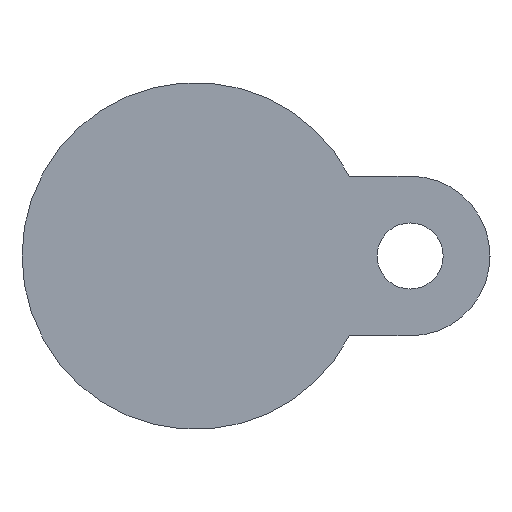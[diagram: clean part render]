
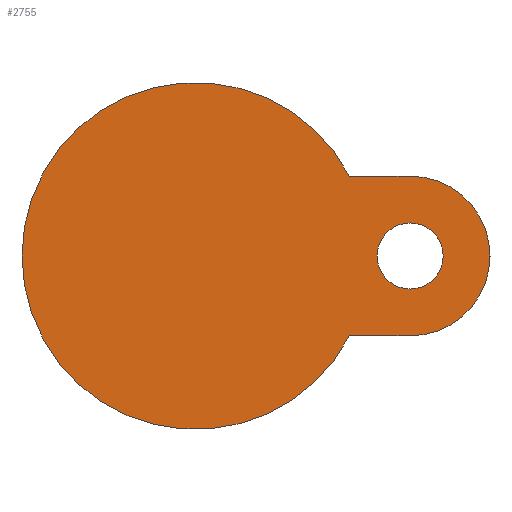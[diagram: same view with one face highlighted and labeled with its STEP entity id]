
A CAD part, front view. The second image highlights one B-rep face of the part: STEP entity #2755.
In plain terms, the highlighted planar face has unit normal (0, -1, 0).
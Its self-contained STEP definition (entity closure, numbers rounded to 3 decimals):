
#38 = AXIS2_PLACEMENT_3D ( 'NONE', #3889, #4277, #494 ) ;
#41 = AXIS2_PLACEMENT_3D ( 'NONE', #3049, #97, #5193 ) ;
#48 = AXIS2_PLACEMENT_3D ( 'NONE', #2687, #1486, #3610 ) ;
#97 = DIRECTION ( 'NONE',  ( 0., -1., 0. ) ) ;
#109 = PLANE ( 'NONE',  #4627 ) ;
#147 = CARTESIAN_POINT ( 'NONE',  ( 53.5, -15., 0. ) ) ;
#311 = CIRCLE ( 'NONE', #38, 31.5 ) ;
#440 = DIRECTION ( 'NONE',  ( 0., -1., 0. ) ) ;
#490 = AXIS2_PLACEMENT_3D ( 'NONE', #5383, #1590, #4066 ) ;
#494 = DIRECTION ( 'NONE',  ( -1., 0., 0. ) ) ;
#570 = VERTEX_POINT ( 'NONE', #147 ) ;
#781 = CARTESIAN_POINT ( 'NONE',  ( 0., -15., 0. ) ) ;
#832 = AXIS2_PLACEMENT_3D ( 'NONE', #781, #2446, #1131 ) ;
#1109 = EDGE_CURVE ( 'NONE', #5409, #2258, #1341, .T. ) ;
#1131 = DIRECTION ( 'NONE',  ( -1., 0., 0. ) ) ;
#1178 = EDGE_CURVE ( 'NONE', #4944, #3352, #2432, .T. ) ;
#1261 = ORIENTED_EDGE ( 'NONE', *, *, #2510, .T. ) ;
#1278 = CARTESIAN_POINT ( 'NONE',  ( 39., -15., 0. ) ) ;
#1329 = DIRECTION ( 'NONE',  ( 1., 0., 0. ) ) ;
#1341 = LINE ( 'NONE', #2993, #2686 ) ;
#1344 = CARTESIAN_POINT ( 'NONE',  ( 27.964, -15., -14.5 ) ) ;
#1363 = ORIENTED_EDGE ( 'NONE', *, *, #1646, .T. ) ;
#1395 = EDGE_CURVE ( 'NONE', #5409, #5335, #5266, .T. ) ;
#1482 = LINE ( 'NONE', #4845, #2602 ) ;
#1486 = DIRECTION ( 'NONE',  ( 0., -1., 0. ) ) ;
#1590 = DIRECTION ( 'NONE',  ( 0., -1., 0. ) ) ;
#1646 = EDGE_CURVE ( 'NONE', #570, #3890, #3231, .T. ) ;
#1649 = DIRECTION ( 'NONE',  ( 1., 0., 0. ) ) ;
#2057 = ORIENTED_EDGE ( 'NONE', *, *, #2988, .F. ) ;
#2258 = VERTEX_POINT ( 'NONE', #2987 ) ;
#2432 = CIRCLE ( 'NONE', #41, 6. ) ;
#2446 = DIRECTION ( 'NONE',  ( 0., 1., 0. ) ) ;
#2510 = EDGE_CURVE ( 'NONE', #3890, #3576, #1482, .T. ) ;
#2588 = CARTESIAN_POINT ( 'NONE',  ( 0., -15., 0. ) ) ;
#2602 = VECTOR ( 'NONE', #4449, 1000. ) ;
#2686 = VECTOR ( 'NONE', #1649, 1000. ) ;
#2687 = CARTESIAN_POINT ( 'NONE',  ( 39., -15., 0. ) ) ;
#2755 = ADVANCED_FACE ( 'NONE', ( #4275, #4808 ), #109, .T. ) ;
#2853 = CARTESIAN_POINT ( 'NONE',  ( 39., -15., 14.5 ) ) ;
#2960 = DIRECTION ( 'NONE',  ( 1., 0., 0. ) ) ;
#2987 = CARTESIAN_POINT ( 'NONE',  ( 39., -15., -14.5 ) ) ;
#2988 = EDGE_CURVE ( 'NONE', #3352, #4944, #4716, .T. ) ;
#2993 = CARTESIAN_POINT ( 'NONE',  ( 39., -15., -14.5 ) ) ;
#3015 = ORIENTED_EDGE ( 'NONE', *, *, #1109, .T. ) ;
#3025 = ORIENTED_EDGE ( 'NONE', *, *, #1395, .F. ) ;
#3049 = CARTESIAN_POINT ( 'NONE',  ( 39., -15., 0. ) ) ;
#3231 = CIRCLE ( 'NONE', #48, 14.5 ) ;
#3256 = CARTESIAN_POINT ( 'NONE',  ( -31.5, -15., 0. ) ) ;
#3352 = VERTEX_POINT ( 'NONE', #3480 ) ;
#3480 = CARTESIAN_POINT ( 'NONE',  ( 33., -15., 0. ) ) ;
#3503 = CIRCLE ( 'NONE', #490, 14.5 ) ;
#3515 = DIRECTION ( 'NONE',  ( 0., -1., 0. ) ) ;
#3576 = VERTEX_POINT ( 'NONE', #4324 ) ;
#3610 = DIRECTION ( 'NONE',  ( 1., 0., 0. ) ) ;
#3749 = AXIS2_PLACEMENT_3D ( 'NONE', #1278, #440, #2960 ) ;
#3883 = ORIENTED_EDGE ( 'NONE', *, *, #1178, .F. ) ;
#3889 = CARTESIAN_POINT ( 'NONE',  ( 0., -15., 0. ) ) ;
#3890 = VERTEX_POINT ( 'NONE', #2853 ) ;
#3900 = EDGE_CURVE ( 'NONE', #2258, #570, #3503, .T. ) ;
#4048 = ORIENTED_EDGE ( 'NONE', *, *, #4670, .F. ) ;
#4066 = DIRECTION ( 'NONE',  ( 1., 0., 0. ) ) ;
#4181 = EDGE_LOOP ( 'NONE', ( #3025, #3015, #5155, #1363, #1261, #4048 ) ) ;
#4275 = FACE_OUTER_BOUND ( 'NONE', #4181, .T. ) ;
#4277 = DIRECTION ( 'NONE',  ( 0., 1., 0. ) ) ;
#4324 = CARTESIAN_POINT ( 'NONE',  ( 27.964, -15., 14.5 ) ) ;
#4415 = CARTESIAN_POINT ( 'NONE',  ( 45., -15., 0. ) ) ;
#4449 = DIRECTION ( 'NONE',  ( -1., 0., 0. ) ) ;
#4627 = AXIS2_PLACEMENT_3D ( 'NONE', #2588, #3515, #1329 ) ;
#4670 = EDGE_CURVE ( 'NONE', #5335, #3576, #311, .T. ) ;
#4716 = CIRCLE ( 'NONE', #3749, 6. ) ;
#4808 = FACE_BOUND ( 'NONE', #4893, .T. ) ;
#4845 = CARTESIAN_POINT ( 'NONE',  ( 16.055, -15., 14.5 ) ) ;
#4893 = EDGE_LOOP ( 'NONE', ( #3883, #2057 ) ) ;
#4944 = VERTEX_POINT ( 'NONE', #4415 ) ;
#5155 = ORIENTED_EDGE ( 'NONE', *, *, #3900, .T. ) ;
#5193 = DIRECTION ( 'NONE',  ( 1., 0., 0. ) ) ;
#5266 = CIRCLE ( 'NONE', #832, 31.5 ) ;
#5335 = VERTEX_POINT ( 'NONE', #3256 ) ;
#5383 = CARTESIAN_POINT ( 'NONE',  ( 39., -15., 0. ) ) ;
#5409 = VERTEX_POINT ( 'NONE', #1344 ) ;
